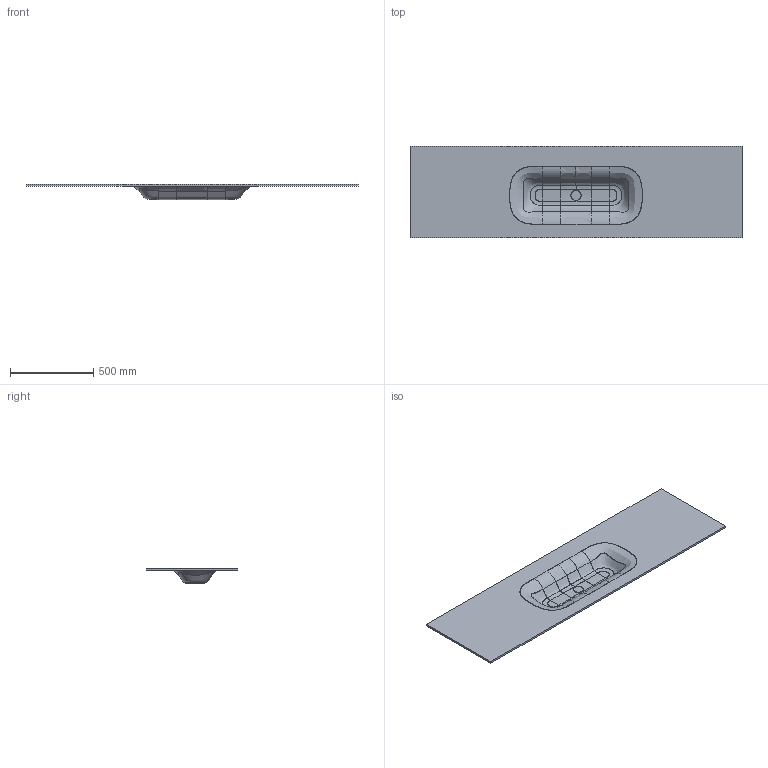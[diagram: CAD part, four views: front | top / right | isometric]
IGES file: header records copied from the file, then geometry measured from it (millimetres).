
Global section: file name: D:\Desktop\GIOVANNI\SCHEDE PRODOTTO\PIANI LAVABO\AQUATICO XL\3D\AQUATICO XL MODULE 80.igs; native system: Rhinoceros ( Jan 17 2018 ); preprocessor: Trout Lake IGES 012 Jan 17 2018; date: 230531.153212; units: millimetre
Bounding box: 2000 x 550 x 95.34 mm (x, y, z)
Surface area: 2082912.3 mm2 (no closed solid volume)
Topology: 0 solids, 0 shells, 49 faces, 3882 edges, 3881 vertices
Faces by surface type: bspline 49
